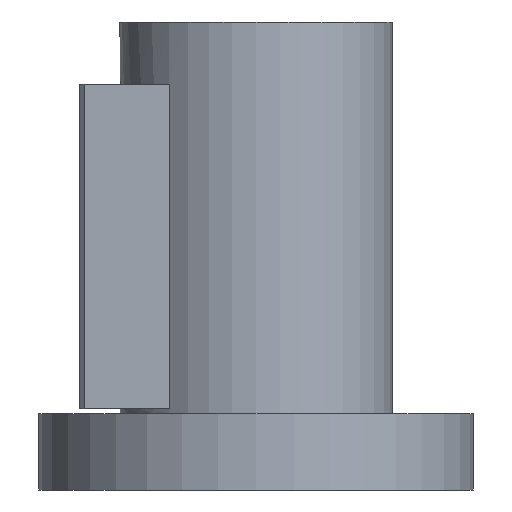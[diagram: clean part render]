
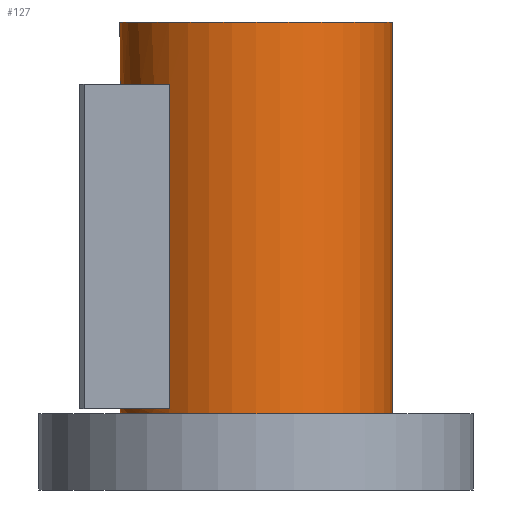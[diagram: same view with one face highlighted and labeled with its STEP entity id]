
A CAD part, front view. The second image highlights one B-rep face of the part: STEP entity #127.
In plain terms, the highlighted cylindrical face has radius 28.5 mm (diameter 57 mm), a full revolution.
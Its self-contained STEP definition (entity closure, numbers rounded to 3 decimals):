
#127=ADVANCED_FACE('',(#200,#201,#202),#155,.T.);
#155=CYLINDRICAL_SURFACE('',#508,28.5);
#168=LINE('',#698,#184);
#169=LINE('',#702,#185);
#184=VECTOR('',#568,1.);
#185=VECTOR('',#571,1.);
#200=FACE_BOUND('',#245,.T.);
#201=FACE_BOUND('',#246,.T.);
#202=FACE_BOUND('',#247,.T.);
#245=EDGE_LOOP('',(#305));
#246=EDGE_LOOP('',(#306));
#247=EDGE_LOOP('',(#307,#308,#309,#310));
#305=ORIENTED_EDGE('',*,*,#431,.F.);
#306=ORIENTED_EDGE('',*,*,#432,.T.);
#307=ORIENTED_EDGE('',*,*,#433,.F.);
#308=ORIENTED_EDGE('',*,*,#434,.F.);
#309=ORIENTED_EDGE('',*,*,#435,.T.);
#310=ORIENTED_EDGE('',*,*,#436,.F.);
#393=VERTEX_POINT('',#692);
#394=VERTEX_POINT('',#694);
#395=VERTEX_POINT('',#696);
#396=VERTEX_POINT('',#697);
#397=VERTEX_POINT('',#699);
#398=VERTEX_POINT('',#701);
#431=EDGE_CURVE('',#393,#393,#475,.T.);
#432=EDGE_CURVE('',#394,#394,#476,.T.);
#433=EDGE_CURVE('',#395,#396,#477,.T.);
#434=EDGE_CURVE('',#397,#395,#168,.T.);
#435=EDGE_CURVE('',#397,#398,#478,.T.);
#436=EDGE_CURVE('',#396,#398,#169,.T.);
#475=CIRCLE('',#504,28.5);
#476=CIRCLE('',#505,28.5);
#477=CIRCLE('',#506,28.5);
#478=CIRCLE('',#507,28.5);
#504=AXIS2_PLACEMENT_3D('',#691,#562,#563);
#505=AXIS2_PLACEMENT_3D('',#693,#564,#565);
#506=AXIS2_PLACEMENT_3D('',#695,#566,#567);
#507=AXIS2_PLACEMENT_3D('',#700,#569,#570);
#508=AXIS2_PLACEMENT_3D('',#703,#572,#573);
#562=DIRECTION('',(0.,0.,1.));
#563=DIRECTION('',(1.,0.,0.));
#564=DIRECTION('',(0.,0.,1.));
#565=DIRECTION('',(1.,0.,0.));
#566=DIRECTION('',(0.,0.,-1.));
#567=DIRECTION('',(-1.,0.,0.));
#568=DIRECTION('',(0.,0.,1.));
#569=DIRECTION('',(0.,0.,-1.));
#570=DIRECTION('',(-1.,0.,0.));
#571=DIRECTION('',(0.,0.,-1.));
#572=DIRECTION('',(0.,0.,-1.));
#573=DIRECTION('',(-1.,0.,0.));
#691=CARTESIAN_POINT('',(0.,0.,98.));
#692=CARTESIAN_POINT('',(28.5,0.,98.));
#693=CARTESIAN_POINT('',(0.,0.,16.));
#694=CARTESIAN_POINT('',(28.5,0.,16.));
#695=CARTESIAN_POINT('',(0.,0.,85.));
#696=CARTESIAN_POINT('',(-18.118,-22.,85.));
#697=CARTESIAN_POINT('',(-18.118,22.,85.));
#698=CARTESIAN_POINT('',(-18.118,-22.,98.));
#699=CARTESIAN_POINT('',(-18.118,-22.,17.));
#700=CARTESIAN_POINT('',(0.,0.,17.));
#701=CARTESIAN_POINT('',(-18.118,22.,17.));
#702=CARTESIAN_POINT('',(-18.118,22.,98.));
#703=CARTESIAN_POINT('',(0.,0.,98.));
